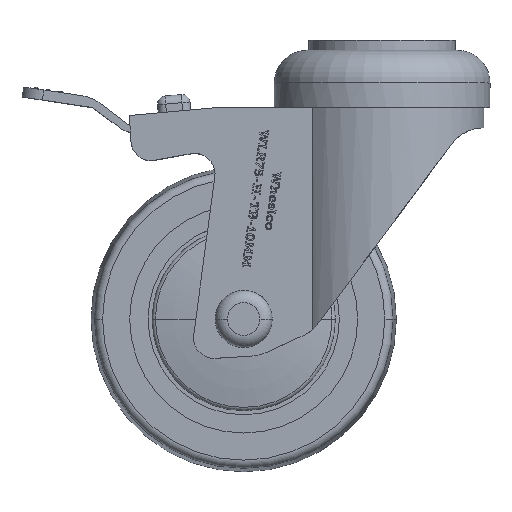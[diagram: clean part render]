
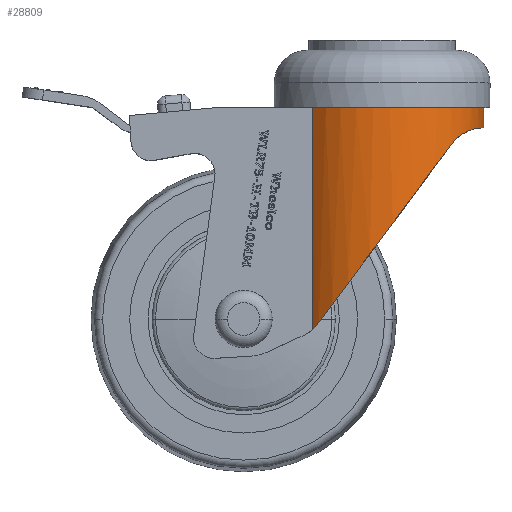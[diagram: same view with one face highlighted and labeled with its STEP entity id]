
A CAD part, top view. The second image highlights one B-rep face of the part: STEP entity #28809.
In plain terms, the highlighted cylindrical face has radius 25 mm (diameter 50 mm), a partial arc.
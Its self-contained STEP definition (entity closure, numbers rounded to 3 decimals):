
#353 = ORIENTED_EDGE ( 'NONE', *, *, #837, .T. ) ;
#837 = EDGE_CURVE ( 'NONE', #8162, #2297, #22660, .T. ) ;
#1155 = CARTESIAN_POINT ( 'NONE',  ( 0., 5., -25. ) ) ;
#1467 = CARTESIAN_POINT ( 'NONE',  ( -19.196, 53.573, 16.027 ) ) ;
#1864 = CARTESIAN_POINT ( 'NONE',  ( -7.486, 5.068, -23.857 ) ) ;
#2164 = CARTESIAN_POINT ( 'NONE',  ( -3.557, 5.003, -24.762 ) ) ;
#2297 = VERTEX_POINT ( 'NONE', #9460 ) ;
#2952 = DIRECTION ( 'NONE',  ( 0., 0., -1. ) ) ;
#3015 = CARTESIAN_POINT ( 'NONE',  ( -18.25, 65., 17.086 ) ) ;
#3706 = CARTESIAN_POINT ( 'NONE',  ( 0., 65., -25. ) ) ;
#3829 = VECTOR ( 'NONE', #27394, 1000. ) ;
#4051 = CARTESIAN_POINT ( 'NONE',  ( -18.25, 54.578, 17.086 ) ) ;
#5805 = CARTESIAN_POINT ( 'NONE',  ( -18.25, 54.578, 17.086 ) ) ;
#6006 = EDGE_LOOP ( 'NONE', ( #27193, #19641, #19299, #23244, #353, #27612 ) ) ;
#6512 = CARTESIAN_POINT ( 'NONE',  ( -4.439, 5.007, -24.619 ) ) ;
#6815 = CARTESIAN_POINT ( 'NONE',  ( -16.521, 7.199, -18.768 ) ) ;
#6888 = CARTESIAN_POINT ( 'NONE',  ( -27.625, 39.276, 5.423 ) ) ;
#7210 = DIRECTION ( 'NONE',  ( 0., 0., 1. ) ) ;
#8162 = VERTEX_POINT ( 'NONE', #4051 ) ;
#9123 = CARTESIAN_POINT ( 'NONE',  ( -17.889, 8.404, -17.476 ) ) ;
#9460 = CARTESIAN_POINT ( 'NONE',  ( -19.571, 52.937, 15.556 ) ) ;
#10398 = CARTESIAN_POINT ( 'NONE',  ( -18.25, 0., 17.086 ) ) ;
#11300 = CARTESIAN_POINT ( 'NONE',  ( -7.058, 5.054, -23.987 ) ) ;
#11506 = CARTESIAN_POINT ( 'NONE',  ( -19.571, 52.937, 15.556 ) ) ;
#12065 = DIRECTION ( 'NONE',  ( 0., -1., 0. ) ) ;
#12293 = LINE ( 'NONE', #3015, #25544 ) ;
#13219 = CARTESIAN_POINT ( 'NONE',  ( -19.571, 52.937, 15.556 ) ) ;
#13465 = CARTESIAN_POINT ( 'NONE',  ( -0.894, 5., -25. ) ) ;
#13748 = B_SPLINE_CURVE_WITH_KNOTS ( 'NONE', 3,
 ( #20613, #9123, #30503, #6815, #18422, #16268, #18737, #25860, #25403, #30060, #23086, #18297, #27874, #27741, #18573, #1864, #11300, #28030, #23239, #6512, #2164, #15954, #13465, #14078 ),
 .UNSPECIFIED., .F., .F.,
 ( 4, 2, 2, 2, 2, 2, 2, 2, 2, 2, 2, 4 ),
 ( 0., 0.003, 0.004, 0.005, 0.008, 0.009, 0.011, 0.013, 0.015, 0.016, 0.019, 0.021 ),
 .UNSPECIFIED. ) ;
#13992 = CARTESIAN_POINT ( 'NONE',  ( -27.132, 21.837, -7.512 ) ) ;
#14078 = CARTESIAN_POINT ( 'NONE',  ( 0., 5., -25. ) ) ;
#14102 = EDGE_CURVE ( 'NONE', #23078, #22461, #29006, .T. ) ;
#14156 = CARTESIAN_POINT ( 'NONE',  ( -18.329, 9.043, -17.001 ) ) ;
#14723 = FACE_OUTER_BOUND ( 'NONE', #6006, .T. ) ;
#15954 = CARTESIAN_POINT ( 'NONE',  ( -1.784, 5., -24.952 ) ) ;
#16268 = CARTESIAN_POINT ( 'NONE',  ( -15.578, 6.626, -19.557 ) ) ;
#17134 = AXIS2_PLACEMENT_3D ( 'NONE', #23944, #28436, #7210 ) ;
#18297 = CARTESIAN_POINT ( 'NONE',  ( -11.191, 5.362, -22.36 ) ) ;
#18422 = CARTESIAN_POINT ( 'NONE',  ( -16.215, 6.994, -19.033 ) ) ;
#18573 = CARTESIAN_POINT ( 'NONE',  ( -8.754, 5.125, -23.434 ) ) ;
#18651 = AXIS2_PLACEMENT_3D ( 'NONE', #26787, #12065, #2952 ) ;
#18737 = CARTESIAN_POINT ( 'NONE',  ( -15.249, 6.464, -19.815 ) ) ;
#19299 = ORIENTED_EDGE ( 'NONE', *, *, #14102, .T. ) ;
#19641 = ORIENTED_EDGE ( 'NONE', *, *, #28924, .T. ) ;
#19832 = VERTEX_POINT ( 'NONE', #1155 ) ;
#19980 =( BOUNDED_CURVE ( )  B_SPLINE_CURVE ( 3, ( #14156, #13992, #6888, #11506 ),
 .UNSPECIFIED., .F., .T. ) 
 B_SPLINE_CURVE_WITH_KNOTS ( ( 4, 4 ),
 ( 0.823, 2.242 ),
 .UNSPECIFIED. ) 
 CURVE ( )  GEOMETRIC_REPRESENTATION_ITEM ( )  RATIONAL_B_SPLINE_CURVE ( ( 1., 0.839, 0.839, 1. ) ) 
 REPRESENTATION_ITEM ( '' )  );
#20613 = CARTESIAN_POINT ( 'NONE',  ( -18.329, 9.043, -17.001 ) ) ;
#21099 = CARTESIAN_POINT ( 'NONE',  ( -18.329, 9.043, -17.001 ) ) ;
#21912 = DIRECTION ( 'NONE',  ( 0., -1., 0. ) ) ;
#22068 = EDGE_CURVE ( 'NONE', #8162, #22461, #12293, .T. ) ;
#22461 = VERTEX_POINT ( 'NONE', #10398 ) ;
#22660 = B_SPLINE_CURVE_WITH_KNOTS ( 'NONE', 3,
 ( #5805, #25003, #1467, #13219 ),
 .UNSPECIFIED., .F., .F.,
 ( 4, 4 ),
 ( 0., 0.003 ),
 .UNSPECIFIED. ) ;
#22801 = EDGE_CURVE ( 'NONE', #26331, #2297, #19980, .T. ) ;
#23078 = VERTEX_POINT ( 'NONE', #29792 ) ;
#23086 = CARTESIAN_POINT ( 'NONE',  ( -11.979, 5.485, -21.948 ) ) ;
#23239 = CARTESIAN_POINT ( 'NONE',  ( -5.756, 5.024, -24.332 ) ) ;
#23244 = ORIENTED_EDGE ( 'NONE', *, *, #22068, .F. ) ;
#23944 = CARTESIAN_POINT ( 'NONE',  ( 0., 0., 0. ) ) ;
#24004 = CYLINDRICAL_SURFACE ( 'NONE', #18651, 25. ) ;
#24630 = LINE ( 'NONE', #3706, #3829 ) ;
#25003 = CARTESIAN_POINT ( 'NONE',  ( -18.757, 54.114, 16.544 ) ) ;
#25403 = CARTESIAN_POINT ( 'NONE',  ( -13.509, 5.813, -21.054 ) ) ;
#25544 = VECTOR ( 'NONE', #21912, 1000. ) ;
#25860 = CARTESIAN_POINT ( 'NONE',  ( -14.23, 6.031, -20.572 ) ) ;
#26331 = VERTEX_POINT ( 'NONE', #21099 ) ;
#26787 = CARTESIAN_POINT ( 'NONE',  ( 0., 65., 0. ) ) ;
#27193 = ORIENTED_EDGE ( 'NONE', *, *, #27628, .T. ) ;
#27394 = DIRECTION ( 'NONE',  ( 0., -1., 0. ) ) ;
#27612 = ORIENTED_EDGE ( 'NONE', *, *, #22801, .F. ) ;
#27628 = EDGE_CURVE ( 'NONE', #26331, #19832, #13748, .T. ) ;
#27741 = CARTESIAN_POINT ( 'NONE',  ( -9.581, 5.18, -23.108 ) ) ;
#27874 = CARTESIAN_POINT ( 'NONE',  ( -10.792, 5.31, -22.555 ) ) ;
#28030 = CARTESIAN_POINT ( 'NONE',  ( -6.194, 5.032, -24.225 ) ) ;
#28436 = DIRECTION ( 'NONE',  ( 0., 1., 0. ) ) ;
#28809 = ADVANCED_FACE ( 'NONE', ( #14723 ), #24004, .T. ) ;
#28924 = EDGE_CURVE ( 'NONE', #19832, #23078, #24630, .T. ) ;
#29006 = CIRCLE ( 'NONE', #17134, 25. ) ;
#29792 = CARTESIAN_POINT ( 'NONE',  ( 0., 0., -25. ) ) ;
#30060 = CARTESIAN_POINT ( 'NONE',  ( -12.369, 5.558, -21.73 ) ) ;
#30503 = CARTESIAN_POINT ( 'NONE',  ( -17.382, 7.872, -17.985 ) ) ;
